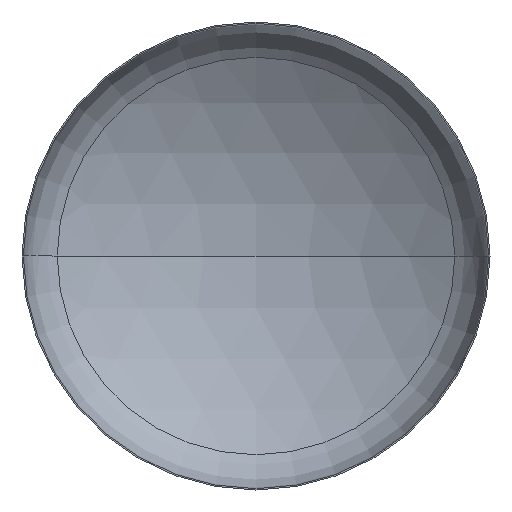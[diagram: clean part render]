
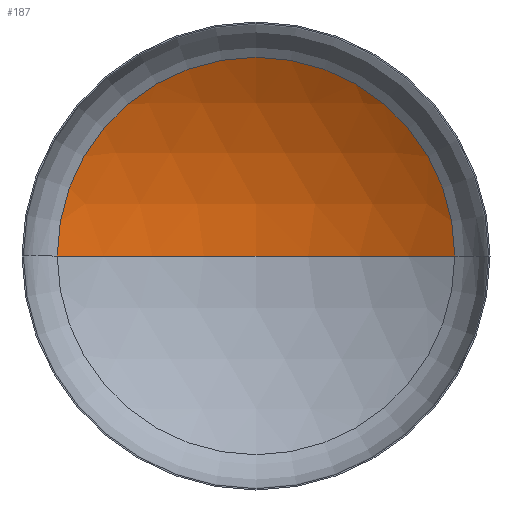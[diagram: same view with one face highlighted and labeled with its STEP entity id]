
A CAD part, front view. The second image highlights one B-rep face of the part: STEP entity #187.
In plain terms, the highlighted spherical face has radius 3600 mm.
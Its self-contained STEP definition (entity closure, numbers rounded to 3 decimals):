
#2 = EDGE_LOOP ( 'NONE', ( #68, #149, #89 ) ) ;
#5 = AXIS2_PLACEMENT_3D ( 'NONE', #375, #60, #86 ) ;
#10 = VERTEX_POINT ( 'NONE', #366 ) ;
#22 = VERTEX_POINT ( 'NONE', #281 ) ;
#60 = DIRECTION ( 'NONE',  ( 0., 0., 1. ) ) ;
#68 = ORIENTED_EDGE ( 'NONE', *, *, #371, .F. ) ;
#76 = FACE_OUTER_BOUND ( 'NONE', #2, .T. ) ;
#80 = AXIS2_PLACEMENT_3D ( 'NONE', #254, #253, #271 ) ;
#83 = AXIS2_PLACEMENT_3D ( 'NONE', #196, #209, #203 ) ;
#86 = DIRECTION ( 'NONE',  ( 1., 0., 0. ) ) ;
#89 = ORIENTED_EDGE ( 'NONE', *, *, #204, .T. ) ;
#109 = AXIS2_PLACEMENT_3D ( 'NONE', #315, #298, #190 ) ;
#112 = VERTEX_POINT ( 'NONE', #344 ) ;
#149 = ORIENTED_EDGE ( 'NONE', *, *, #210, .T. ) ;
#187 = ADVANCED_FACE ( 'NONE', ( #76 ), #387, .F. ) ;
#190 = DIRECTION ( 'NONE',  ( -1., 0., 0. ) ) ;
#196 = CARTESIAN_POINT ( 'NONE',  ( 0., 629.007, 0. ) ) ;
#203 = DIRECTION ( 'NONE',  ( 1., 0., 0. ) ) ;
#204 = EDGE_CURVE ( 'NONE', #10, #22, #380, .T. ) ;
#209 = DIRECTION ( 'NONE',  ( 0., -1., 0. ) ) ;
#210 = EDGE_CURVE ( 'NONE', #112, #10, #314, .T. ) ;
#226 = CIRCLE ( 'NONE', #5, 3600. ) ;
#253 = DIRECTION ( 'NONE',  ( 0., 0., -1. ) ) ;
#254 = CARTESIAN_POINT ( 'NONE',  ( 0., -2421.963, 0. ) ) ;
#271 = DIRECTION ( 'NONE',  ( -1., 0., 0. ) ) ;
#281 = CARTESIAN_POINT ( 'NONE',  ( -1910.912, 629.007, 0. ) ) ;
#298 = DIRECTION ( 'NONE',  ( 0., 0., -1. ) ) ;
#314 = CIRCLE ( 'NONE', #80, 3600. ) ;
#315 = CARTESIAN_POINT ( 'NONE',  ( 0., -2421.963, 0. ) ) ;
#344 = CARTESIAN_POINT ( 'NONE',  ( 0., 1178.037, 0. ) ) ;
#366 = CARTESIAN_POINT ( 'NONE',  ( 1910.912, 629.007, 0. ) ) ;
#371 = EDGE_CURVE ( 'NONE', #112, #22, #226, .T. ) ;
#375 = CARTESIAN_POINT ( 'NONE',  ( 0., -2421.963, 0. ) ) ;
#380 = CIRCLE ( 'NONE', #83, 1910.912 ) ;
#387 = SPHERICAL_SURFACE ( 'NONE', #109, 3600. ) ;
